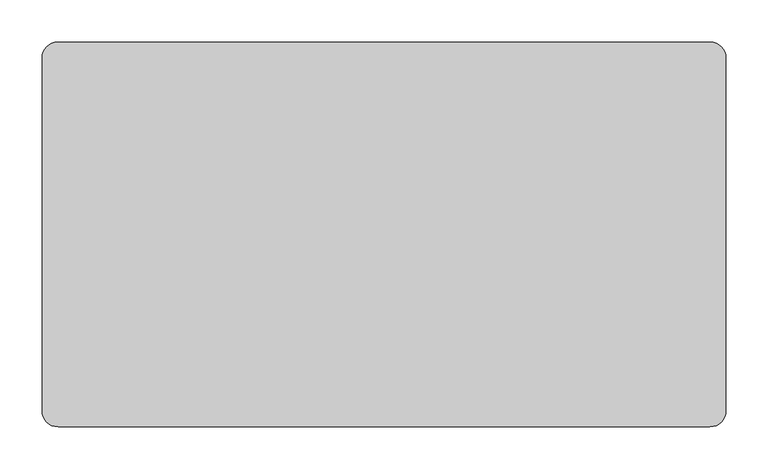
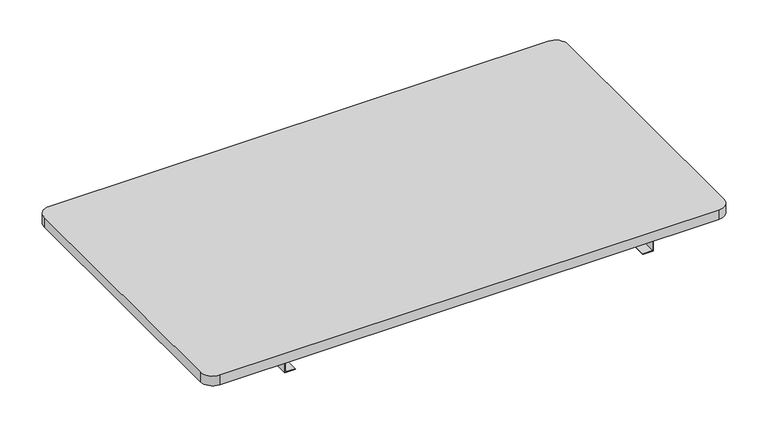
"""IFC4 building model written with IfcOpenShell, lengths in millimetres: furniture geometry."""

from ifc_helpers import new_model, si_unit, point, frame, frame_2d, origin, place, context, project, spatial, polyline, circle_curve, trimmed, segment, composite_curve, outline, extrude, source, transform, mapped, element, save


def furniture_645566ab(model_context):
    return source(origin(), model_context, "Body", "SweptSolid", [
        extrude(outline(composite_curve([segment(trimmed(circle_curve(frame_2d((387.35, 209.55)), 19.05), [point((387.35, 228.6))], [point((406.4, 209.55))], False, "CARTESIAN"), True, "CONTINUOUS"), segment(polyline([(406.4, 209.55), (406.4, -209.55)]), True, "CONTINUOUS"), segment(trimmed(circle_curve(frame_2d((387.35, -209.55)), 19.05), [point((406.4, -209.55))], [point((387.35, -228.6))], False, "CARTESIAN"), True, "CONTINUOUS"), segment(polyline([(387.35, -228.6), (-387.35, -228.6)]), True, "CONTINUOUS"), segment(trimmed(circle_curve(frame_2d((-387.35, -209.55)), 19.05), [point((-387.35, -228.6))], [point((-406.4, -209.55))], False, "CARTESIAN"), True, "CONTINUOUS"), segment(polyline([(-406.4, -209.55), (-406.4, 209.55)]), True, "CONTINUOUS"), segment(trimmed(circle_curve(frame_2d((-387.35, 209.55)), 19.05), [point((-406.4, 209.55))], [point((-387.35, 228.6))], False, "CARTESIAN"), True, "CONTINUOUS"), segment(polyline([(-387.35, 228.6), (387.35, 228.6)]), True, "CONTINUOUS")], self_intersect=False)), frame((0.0, 0.0, 923.925), z_axis=(0.0, 0.0, 1.0), x_axis=(1.0, 0.0, 0.0)), (0.0, 0.0, 1.0), 15.875),
        extrude(outline(polyline([(908.05, -285.75), (908.05, -269.875), (908.84375, -269.875), (908.84375, -284.95625), (923.925, -284.95625), (923.925, -285.75), (908.05, -285.75)])), frame((0.0, -228.6, 0.0), z_axis=(0.0, 1.0, 0.0), x_axis=(0.0, 0.0, 1.0)), (0.0, 0.0, 1.0), 457.2),
        extrude(outline(polyline([(908.05, 285.75), (923.925, 285.75), (923.925, 284.95625), (908.84375, 284.95625), (908.84375, 269.875), (908.05, 269.875), (908.05, 285.75)])), frame((0.0, -228.6, 0.0), z_axis=(0.0, 1.0, 0.0), x_axis=(0.0, 0.0, 1.0)), (0.0, 0.0, 1.0), 457.2),
    ])


if __name__ == "__main__":
    model = new_model("IFC4")
    model_context = context("Model", 3, world=origin())
    ifc_project = project(units=[si_unit("LENGTHUNIT", "METRE", prefix="MILLI")], contexts=[model_context])
    site = spatial("IfcSite", under=ifc_project)
    building = spatial("IfcBuilding", under=site)
    placement = place(None, origin())
    furniture_shape = furniture_645566ab(model_context)
    element("IfcFurniture", 1, ObjectType="HermanMiller_CoStruc_CO555_CounterTop : 18\"D x 32\"W", at=placement, inside=building, context=model_context, shape_type="MappedRepresentation", body=[
        mapped(furniture_shape, transform((0.0, 0.0, 0.0), x_axis=(1.0, 0.0, 0.0), y_axis=(0.0, 1.0, 0.0), z_axis=(0.0, 0.0, 1.0))),
    ])
    save(model, "model.ifc")
